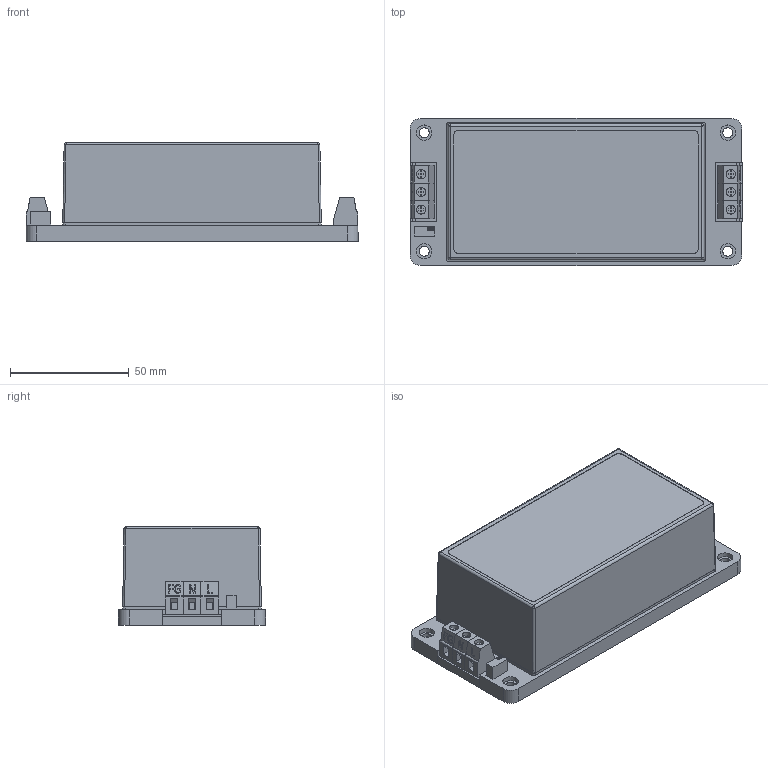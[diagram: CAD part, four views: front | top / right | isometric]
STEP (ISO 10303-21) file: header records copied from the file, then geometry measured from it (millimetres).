
FILE_DESCRIPTION(/* description */ (''),/* implementation_level */ '2;1');
FILE_NAME(/* name */ 'D:\Inventor\3D Files\200508\MQC100_150 - A2.stp',/* time_stamp */ '2020-04-23T11:08:10+08:00',/* author */ ('peter'),/* organization */ (''),/* preprocessor_version */ 'ST-DEVELOPER v15.2',/* originating_system */ 'Autodesk Inventor 2014',/* authorisation */ '');
FILE_SCHEMA (('AUTOMOTIVE_DESIGN { 1 0 10303 214 3 1 1 }'));
Length unit declared in the file: millimetre
Products named in the file (26): A2 - BOT CASE; M3 x 4 mm; A2 - TOP COVER; A2 - PCB; FUSE; DT-128-01; DT-128-01_1; DT-128-01_2; INLET - A2 - IN; DT-128-01_3; DT-128-01_4; DT-128-01_5; INLET - A2 - IN_1; ARCH - A2; PCB _ MQC150; R378MQF24001; R378MQF24002; MYLAR _ R380MMQC15002; R377TCMQC15001; BOT CASE; M3 x 5 mm; MQC150; MQC150 - A2
Bounding box: 140 x 62 x 41.71 mm (x, y, z)
Volume: 158851.8 mm3; surface area: 147961.7 mm2
Topology: 23 solids, 28 shells, 1162 faces, 3002 edges, 1984 vertices
Faces by surface type: plane 857, cylinder 186, bspline 83, cone 36
Full cylindrical faces by diameter (mm): 1.2 x7, 1.5 x3, 2.2 x9, 2.459 x7, 2.5 x12, 3 x5, 3.5 x7, 3.8 x6, 4 x14, 4.2 x4, 6.441 x1, 6.5 x11, 7.488 x1, 7.847 x1, 7.879 x1, 8 x4, 9.802 x1, 10.169 x1
Entity records: 34802 total; most frequent: CARTESIAN_POINT 7120, ORIENTED_EDGE 5578, DIRECTION 5149, EDGE_CURVE 2794, LINE 2269, VECTOR 2269, VERTEX_POINT 1907, AXIS2_PLACEMENT_3D 1440
